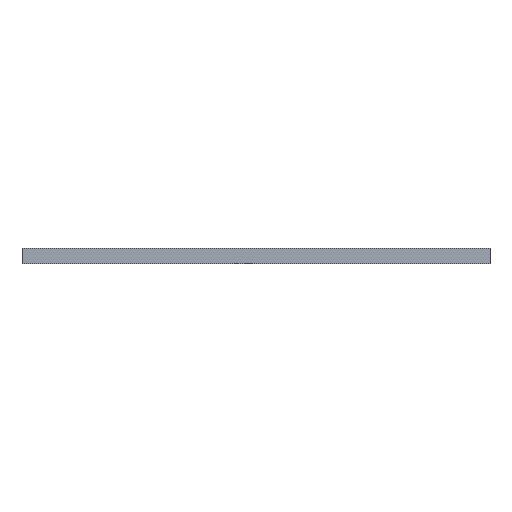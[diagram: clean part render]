
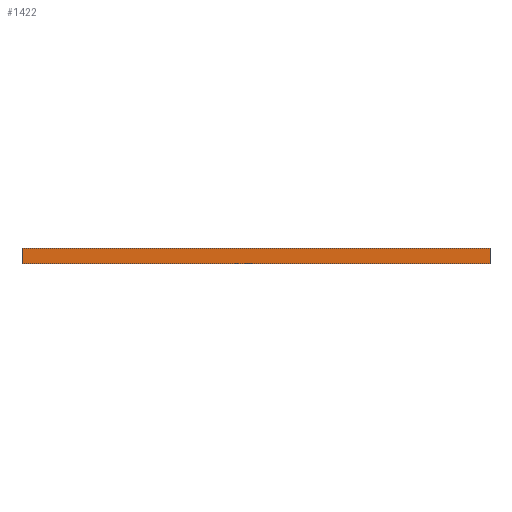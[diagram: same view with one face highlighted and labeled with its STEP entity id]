
A CAD part, front view. The second image highlights one B-rep face of the part: STEP entity #1422.
In plain terms, the highlighted planar face has unit normal (0, -1, 0).
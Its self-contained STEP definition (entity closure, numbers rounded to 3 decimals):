
#44 = PLANE('',#45);
#45 = AXIS2_PLACEMENT_3D('',#46,#47,#48);
#46 = CARTESIAN_POINT('',(90.,0.,0.));
#47 = DIRECTION('',(-1.,0.,0.));
#48 = DIRECTION('',(0.,1.,0.));
#72 = PLANE('',#73);
#73 = AXIS2_PLACEMENT_3D('',#74,#75,#76);
#74 = CARTESIAN_POINT('',(46.211,46.053,3.));
#75 = DIRECTION('',(0.,0.,1.));
#76 = DIRECTION('',(1.,0.,-0.));
#126 = PLANE('',#127);
#127 = AXIS2_PLACEMENT_3D('',#128,#129,#130);
#128 = CARTESIAN_POINT('',(46.211,46.053,0.));
#129 = DIRECTION('',(0.,0.,1.));
#130 = DIRECTION('',(1.,0.,-0.));
#141 = EDGE_CURVE('',#142,#144,#146,.T.);
#142 = VERTEX_POINT('',#143);
#143 = CARTESIAN_POINT('',(90.,0.,0.));
#144 = VERTEX_POINT('',#145);
#145 = CARTESIAN_POINT('',(90.,0.,3.));
#146 = SURFACE_CURVE('',#147,(#151,#158),.PCURVE_S1.);
#147 = LINE('',#148,#149);
#148 = CARTESIAN_POINT('',(90.,0.,0.));
#149 = VECTOR('',#150,1.);
#150 = DIRECTION('',(0.,0.,1.));
#151 = PCURVE('',#44,#152);
#152 = DEFINITIONAL_REPRESENTATION('',(#153),#157);
#153 = LINE('',#154,#155);
#154 = CARTESIAN_POINT('',(0.,0.));
#155 = VECTOR('',#156,1.);
#156 = DIRECTION('',(0.,-1.));
#157 = ( GEOMETRIC_REPRESENTATION_CONTEXT(2) 
PARAMETRIC_REPRESENTATION_CONTEXT() REPRESENTATION_CONTEXT('2D SPACE',''
  ) );
#158 = PCURVE('',#159,#164);
#159 = PLANE('',#160);
#160 = AXIS2_PLACEMENT_3D('',#161,#162,#163);
#161 = CARTESIAN_POINT('',(0.,0.,0.));
#162 = DIRECTION('',(0.,1.,0.));
#163 = DIRECTION('',(1.,0.,0.));
#164 = DEFINITIONAL_REPRESENTATION('',(#165),#169);
#165 = LINE('',#166,#167);
#166 = CARTESIAN_POINT('',(90.,0.));
#167 = VECTOR('',#168,1.);
#168 = DIRECTION('',(0.,-1.));
#169 = ( GEOMETRIC_REPRESENTATION_CONTEXT(2) 
PARAMETRIC_REPRESENTATION_CONTEXT() REPRESENTATION_CONTEXT('2D SPACE',''
  ) );
#375 = VERTEX_POINT('',#376);
#376 = CARTESIAN_POINT('',(0.,0.,0.));
#390 = PLANE('',#391);
#391 = AXIS2_PLACEMENT_3D('',#392,#393,#394);
#392 = CARTESIAN_POINT('',(0.,90.,0.));
#393 = DIRECTION('',(1.,0.,-0.));
#394 = DIRECTION('',(0.,-1.,0.));
#402 = EDGE_CURVE('',#375,#142,#403,.T.);
#403 = SURFACE_CURVE('',#404,(#408,#415),.PCURVE_S1.);
#404 = LINE('',#405,#406);
#405 = CARTESIAN_POINT('',(0.,0.,0.));
#406 = VECTOR('',#407,1.);
#407 = DIRECTION('',(1.,0.,0.));
#408 = PCURVE('',#126,#409);
#409 = DEFINITIONAL_REPRESENTATION('',(#410),#414);
#410 = LINE('',#411,#412);
#411 = CARTESIAN_POINT('',(-46.211,-46.053));
#412 = VECTOR('',#413,1.);
#413 = DIRECTION('',(1.,0.));
#414 = ( GEOMETRIC_REPRESENTATION_CONTEXT(2) 
PARAMETRIC_REPRESENTATION_CONTEXT() REPRESENTATION_CONTEXT('2D SPACE',''
  ) );
#415 = PCURVE('',#159,#416);
#416 = DEFINITIONAL_REPRESENTATION('',(#417),#421);
#417 = LINE('',#418,#419);
#418 = CARTESIAN_POINT('',(0.,0.));
#419 = VECTOR('',#420,1.);
#420 = DIRECTION('',(1.,0.));
#421 = ( GEOMETRIC_REPRESENTATION_CONTEXT(2) 
PARAMETRIC_REPRESENTATION_CONTEXT() REPRESENTATION_CONTEXT('2D SPACE',''
  ) );
#979 = VERTEX_POINT('',#980);
#980 = CARTESIAN_POINT('',(0.,0.,3.));
#1001 = EDGE_CURVE('',#979,#144,#1002,.T.);
#1002 = SURFACE_CURVE('',#1003,(#1007,#1014),.PCURVE_S1.);
#1003 = LINE('',#1004,#1005);
#1004 = CARTESIAN_POINT('',(0.,0.,3.));
#1005 = VECTOR('',#1006,1.);
#1006 = DIRECTION('',(1.,0.,0.));
#1007 = PCURVE('',#72,#1008);
#1008 = DEFINITIONAL_REPRESENTATION('',(#1009),#1013);
#1009 = LINE('',#1010,#1011);
#1010 = CARTESIAN_POINT('',(-46.211,-46.053));
#1011 = VECTOR('',#1012,1.);
#1012 = DIRECTION('',(1.,0.));
#1013 = ( GEOMETRIC_REPRESENTATION_CONTEXT(2) 
PARAMETRIC_REPRESENTATION_CONTEXT() REPRESENTATION_CONTEXT('2D SPACE',''
  ) );
#1014 = PCURVE('',#159,#1015);
#1015 = DEFINITIONAL_REPRESENTATION('',(#1016),#1020);
#1016 = LINE('',#1017,#1018);
#1017 = CARTESIAN_POINT('',(0.,-3.));
#1018 = VECTOR('',#1019,1.);
#1019 = DIRECTION('',(1.,0.));
#1020 = ( GEOMETRIC_REPRESENTATION_CONTEXT(2) 
PARAMETRIC_REPRESENTATION_CONTEXT() REPRESENTATION_CONTEXT('2D SPACE',''
  ) );
#1422 = ADVANCED_FACE('',(#1423),#159,.F.);
#1423 = FACE_BOUND('',#1424,.F.);
#1424 = EDGE_LOOP('',(#1425,#1446,#1447,#1448));
#1425 = ORIENTED_EDGE('',*,*,#1426,.T.);
#1426 = EDGE_CURVE('',#375,#979,#1427,.T.);
#1427 = SURFACE_CURVE('',#1428,(#1432,#1439),.PCURVE_S1.);
#1428 = LINE('',#1429,#1430);
#1429 = CARTESIAN_POINT('',(0.,0.,0.));
#1430 = VECTOR('',#1431,1.);
#1431 = DIRECTION('',(0.,0.,1.));
#1432 = PCURVE('',#159,#1433);
#1433 = DEFINITIONAL_REPRESENTATION('',(#1434),#1438);
#1434 = LINE('',#1435,#1436);
#1435 = CARTESIAN_POINT('',(0.,0.));
#1436 = VECTOR('',#1437,1.);
#1437 = DIRECTION('',(0.,-1.));
#1438 = ( GEOMETRIC_REPRESENTATION_CONTEXT(2) 
PARAMETRIC_REPRESENTATION_CONTEXT() REPRESENTATION_CONTEXT('2D SPACE',''
  ) );
#1439 = PCURVE('',#390,#1440);
#1440 = DEFINITIONAL_REPRESENTATION('',(#1441),#1445);
#1441 = LINE('',#1442,#1443);
#1442 = CARTESIAN_POINT('',(90.,0.));
#1443 = VECTOR('',#1444,1.);
#1444 = DIRECTION('',(0.,-1.));
#1445 = ( GEOMETRIC_REPRESENTATION_CONTEXT(2) 
PARAMETRIC_REPRESENTATION_CONTEXT() REPRESENTATION_CONTEXT('2D SPACE',''
  ) );
#1446 = ORIENTED_EDGE('',*,*,#1001,.T.);
#1447 = ORIENTED_EDGE('',*,*,#141,.F.);
#1448 = ORIENTED_EDGE('',*,*,#402,.F.);
